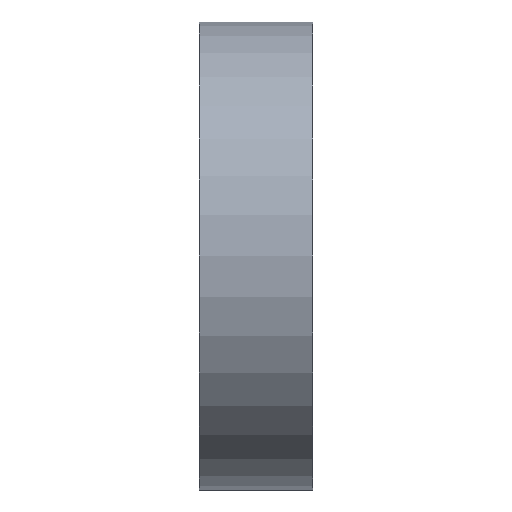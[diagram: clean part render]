
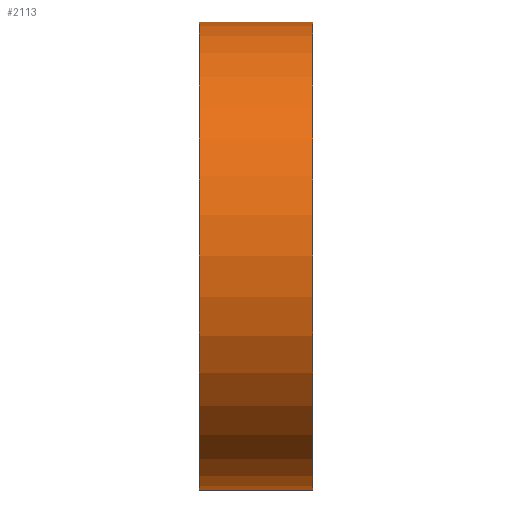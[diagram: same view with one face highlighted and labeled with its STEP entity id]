
A CAD part, left-side view. The second image highlights one B-rep face of the part: STEP entity #2113.
In plain terms, the highlighted cylindrical face has radius 25.6 mm (diameter 51.2 mm), a full revolution.
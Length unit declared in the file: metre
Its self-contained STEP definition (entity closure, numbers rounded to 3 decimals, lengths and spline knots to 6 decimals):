
#25=CYLINDRICAL_SURFACE('',#2334,0.0256);
#622=ORIENTED_EDGE('',*,*,#1173,.F.);
#623=ORIENTED_EDGE('',*,*,#1215,.T.);
#1173=EDGE_CURVE('',#1495,#1495,#1681,.T.);
#1215=EDGE_CURVE('',#1521,#1521,#1701,.T.);
#1495=VERTEX_POINT('',#3399);
#1521=VERTEX_POINT('',#3486);
#1681=CIRCLE('',#2294,0.0256);
#1701=CIRCLE('',#2333,0.0256);
#1799=EDGE_LOOP('',(#622));
#1800=EDGE_LOOP('',(#623));
#1941=FACE_BOUND('',#1799,.T.);
#1942=FACE_BOUND('',#1800,.T.);
#2113=ADVANCED_FACE('',(#1941,#1942),#25,.T.);
#2294=AXIS2_PLACEMENT_3D('',#3398,#2661,#2662);
#2333=AXIS2_PLACEMENT_3D('',#3485,#2761,#2762);
#2334=AXIS2_PLACEMENT_3D('',#3487,#2763,#2764);
#2661=DIRECTION('',(0.,1.,0.));
#2662=DIRECTION('',(0.,0.,1.));
#2761=DIRECTION('',(0.,1.,0.));
#2762=DIRECTION('',(0.,0.,1.));
#2763=DIRECTION('',(0.,-1.,0.));
#2764=DIRECTION('',(0.,0.,-1.));
#3398=CARTESIAN_POINT('',(0.,0.0004,0.));
#3399=CARTESIAN_POINT('',(0.,0.0004,0.0256));
#3485=CARTESIAN_POINT('',(0.,-0.012,0.));
#3486=CARTESIAN_POINT('',(0.,-0.012,0.0256));
#3487=CARTESIAN_POINT('',(0.,0.0004,0.));
